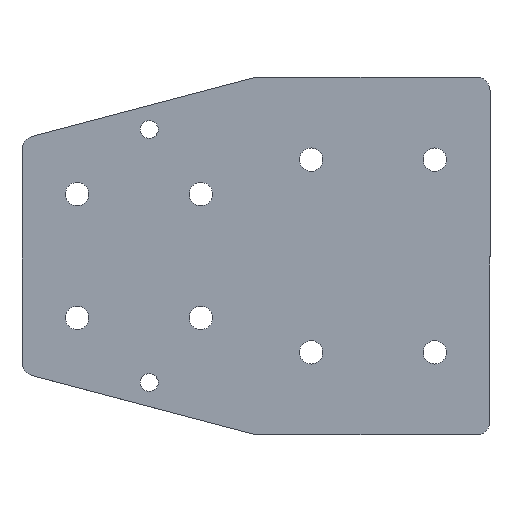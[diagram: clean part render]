
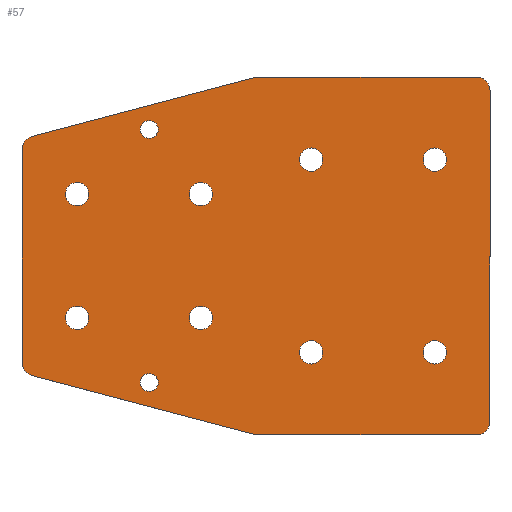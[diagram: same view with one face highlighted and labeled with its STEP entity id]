
A CAD part, top view. The second image highlights one B-rep face of the part: STEP entity #57.
In plain terms, the highlighted planar face has unit normal (0, 0, 1).
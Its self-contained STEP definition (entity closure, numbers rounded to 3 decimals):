
#57=ADVANCED_FACE('',(#291,#293,#295,#297,#299,#301,#303,#305,#307,#309,#311),#313,
.T.);
#291=FACE_BOUND('',#292,.T.);
#292=EDGE_LOOP('',(#514,#515,#516,#517,#518,#519,#520,#521,#522,#523,#524,#525));
#293=FACE_BOUND('',#294,.T.);
#294=EDGE_LOOP('',(#526));
#295=FACE_BOUND('',#296,.T.);
#296=EDGE_LOOP('',(#527));
#297=FACE_BOUND('',#298,.T.);
#298=EDGE_LOOP('',(#528));
#299=FACE_BOUND('',#300,.T.);
#300=EDGE_LOOP('',(#529));
#301=FACE_BOUND('',#302,.T.);
#302=EDGE_LOOP('',(#530));
#303=FACE_BOUND('',#304,.T.);
#304=EDGE_LOOP('',(#531));
#305=FACE_BOUND('',#306,.T.);
#306=EDGE_LOOP('',(#532));
#307=FACE_BOUND('',#308,.T.);
#308=EDGE_LOOP('',(#533));
#309=FACE_BOUND('',#310,.T.);
#310=EDGE_LOOP('',(#534));
#311=FACE_BOUND('',#312,.T.);
#312=EDGE_LOOP('',(#535));
#313=PLANE('',#314);
#314=AXIS2_PLACEMENT_3D('',#315,#316,#317);
#315=CARTESIAN_POINT('',(0.,0.,4.));
#316=DIRECTION('',(0.,0.,1.));
#317=DIRECTION('',(-1.,0.,0.));
#514=ORIENTED_EDGE('',*,*,#626,.T.);
#515=ORIENTED_EDGE('',*,*,#627,.T.);
#516=ORIENTED_EDGE('',*,*,#628,.T.);
#517=ORIENTED_EDGE('',*,*,#629,.T.);
#518=ORIENTED_EDGE('',*,*,#630,.T.);
#519=ORIENTED_EDGE('',*,*,#631,.T.);
#520=ORIENTED_EDGE('',*,*,#632,.T.);
#521=ORIENTED_EDGE('',*,*,#633,.T.);
#522=ORIENTED_EDGE('',*,*,#634,.T.);
#523=ORIENTED_EDGE('',*,*,#635,.T.);
#524=ORIENTED_EDGE('',*,*,#636,.T.);
#525=ORIENTED_EDGE('',*,*,#637,.T.);
#526=ORIENTED_EDGE('',*,*,#638,.T.);
#527=ORIENTED_EDGE('',*,*,#639,.T.);
#528=ORIENTED_EDGE('',*,*,#640,.T.);
#529=ORIENTED_EDGE('',*,*,#641,.T.);
#530=ORIENTED_EDGE('',*,*,#642,.T.);
#531=ORIENTED_EDGE('',*,*,#643,.T.);
#532=ORIENTED_EDGE('',*,*,#644,.T.);
#533=ORIENTED_EDGE('',*,*,#645,.T.);
#534=ORIENTED_EDGE('',*,*,#646,.T.);
#535=ORIENTED_EDGE('',*,*,#647,.T.);
#626=EDGE_CURVE('',#704,#705,#706,.T.);
#627=EDGE_CURVE('',#705,#707,#708,.T.);
#628=EDGE_CURVE('',#707,#709,#710,.T.);
#629=EDGE_CURVE('',#709,#711,#712,.T.);
#630=EDGE_CURVE('',#711,#713,#714,.T.);
#631=EDGE_CURVE('',#713,#715,#716,.T.);
#632=EDGE_CURVE('',#715,#717,#718,.T.);
#633=EDGE_CURVE('',#717,#719,#720,.T.);
#634=EDGE_CURVE('',#719,#721,#722,.T.);
#635=EDGE_CURVE('',#721,#723,#724,.T.);
#636=EDGE_CURVE('',#723,#725,#726,.T.);
#637=EDGE_CURVE('',#725,#704,#727,.T.);
#638=EDGE_CURVE('',#728,#728,#729,.F.);
#639=EDGE_CURVE('',#730,#730,#731,.F.);
#640=EDGE_CURVE('',#732,#732,#733,.F.);
#641=EDGE_CURVE('',#734,#734,#735,.F.);
#642=EDGE_CURVE('',#736,#736,#737,.F.);
#643=EDGE_CURVE('',#738,#738,#739,.F.);
#644=EDGE_CURVE('',#740,#740,#741,.F.);
#645=EDGE_CURVE('',#742,#742,#743,.F.);
#646=EDGE_CURVE('',#744,#744,#745,.F.);
#647=EDGE_CURVE('',#746,#746,#747,.F.);
#704=VERTEX_POINT('',#864);
#705=VERTEX_POINT('',#865);
#706=CIRCLE('',#866,5.);
#707=VERTEX_POINT('',#870);
#708=LINE('',#871,#872);
#709=VERTEX_POINT('',#874);
#710=CIRCLE('',#875,5.);
#711=VERTEX_POINT('',#879);
#712=LINE('',#880,#881);
#713=VERTEX_POINT('',#883);
#714=CIRCLE('',#884,5.);
#715=VERTEX_POINT('',#888);
#716=LINE('',#889,#890);
#717=VERTEX_POINT('',#892);
#718=CIRCLE('',#893,5.);
#719=VERTEX_POINT('',#897);
#720=LINE('',#898,#899);
#721=VERTEX_POINT('',#901);
#722=CIRCLE('',#902,5.);
#723=VERTEX_POINT('',#906);
#724=LINE('',#907,#908);
#725=VERTEX_POINT('',#910);
#726=CIRCLE('',#911,5.);
#727=LINE('',#915,#916);
#728=VERTEX_POINT('',#918);
#729=CIRCLE('',#919,4.25);
#730=VERTEX_POINT('',#923);
#731=CIRCLE('',#924,4.25);
#732=VERTEX_POINT('',#928);
#733=CIRCLE('',#929,4.25);
#734=VERTEX_POINT('',#933);
#735=CIRCLE('',#934,4.25);
#736=VERTEX_POINT('',#938);
#737=CIRCLE('',#939,4.25);
#738=VERTEX_POINT('',#943);
#739=CIRCLE('',#944,4.25);
#740=VERTEX_POINT('',#948);
#741=CIRCLE('',#949,4.25);
#742=VERTEX_POINT('',#953);
#743=CIRCLE('',#954,4.25);
#744=VERTEX_POINT('',#958);
#745=CIRCLE('',#959,3.25);
#746=VERTEX_POINT('',#963);
#747=CIRCLE('',#964,3.25);
#864=CARTESIAN_POINT('',(-85.629,-64.834,4.));
#865=CARTESIAN_POINT('',(-84.349,-65.,4.));
#866=AXIS2_PLACEMENT_3D('',#867,#868,#869);
#867=CARTESIAN_POINT('',(-84.349,-60.,4.));
#868=DIRECTION('',(0.,0.,1.));
#869=DIRECTION('',(-0.256,-0.967,0.));
#870=CARTESIAN_POINT('',(-5.,-65.,4.));
#871=CARTESIAN_POINT('',(-84.349,-65.,4.));
#872=VECTOR('',#873,1.);
#873=DIRECTION('',(1.,0.,0.));
#874=CARTESIAN_POINT('',(0.,-60.,4.));
#875=AXIS2_PLACEMENT_3D('',#876,#877,#878);
#876=CARTESIAN_POINT('',(-5.,-60.,4.));
#877=DIRECTION('',(0.,0.,1.));
#878=DIRECTION('',(0.,-1.,0.));
#879=CARTESIAN_POINT('',(0.,60.,4.));
#880=CARTESIAN_POINT('',(0.,-60.,4.));
#881=VECTOR('',#882,1.);
#882=DIRECTION('',(0.,1.,0.));
#883=CARTESIAN_POINT('',(-5.,65.,4.));
#884=AXIS2_PLACEMENT_3D('',#885,#886,#887);
#885=CARTESIAN_POINT('',(-5.,60.,4.));
#886=DIRECTION('',(0.,0.,1.));
#887=DIRECTION('',(1.,0.,0.));
#888=CARTESIAN_POINT('',(-84.349,65.,4.));
#889=CARTESIAN_POINT('',(-5.,65.,4.));
#890=VECTOR('',#891,1.);
#891=DIRECTION('',(-1.,0.,0.));
#892=CARTESIAN_POINT('',(-85.629,64.834,4.));
#893=AXIS2_PLACEMENT_3D('',#894,#895,#896);
#894=CARTESIAN_POINT('',(-84.349,60.,4.));
#895=DIRECTION('',(0.,0.,1.));
#896=DIRECTION('',(0.,1.,0.));
#897=CARTESIAN_POINT('',(-166.279,43.485,4.));
#898=CARTESIAN_POINT('',(-85.629,64.834,4.));
#899=VECTOR('',#900,1.);
#900=DIRECTION('',(-0.967,-0.256,0.));
#901=CARTESIAN_POINT('',(-170.,38.651,4.));
#902=AXIS2_PLACEMENT_3D('',#903,#904,#905);
#903=CARTESIAN_POINT('',(-165.,38.651,4.));
#904=DIRECTION('',(0.,0.,1.));
#905=DIRECTION('',(-0.256,0.967,0.));
#906=CARTESIAN_POINT('',(-170.,-38.651,4.));
#907=CARTESIAN_POINT('',(-170.,38.651,4.));
#908=VECTOR('',#909,1.);
#909=DIRECTION('',(0.,-1.,0.));
#910=CARTESIAN_POINT('',(-166.279,-43.485,4.));
#911=AXIS2_PLACEMENT_3D('',#912,#913,#914);
#912=CARTESIAN_POINT('',(-165.,-38.651,4.));
#913=DIRECTION('',(0.,0.,1.));
#914=DIRECTION('',(-1.,0.,0.));
#915=CARTESIAN_POINT('',(-166.279,-43.485,4.));
#916=VECTOR('',#917,1.);
#917=DIRECTION('',(0.967,-0.256,0.));
#918=CARTESIAN_POINT('',(-20.,30.75,4.));
#919=AXIS2_PLACEMENT_3D('',#920,#921,#922);
#920=CARTESIAN_POINT('',(-20.,35.,4.));
#921=DIRECTION('',(0.,0.,1.));
#922=DIRECTION('',(0.,-1.,0.));
#923=CARTESIAN_POINT('',(-105.,-26.75,4.));
#924=AXIS2_PLACEMENT_3D('',#925,#926,#927);
#925=CARTESIAN_POINT('',(-105.,-22.5,4.));
#926=DIRECTION('',(0.,0.,1.));
#927=DIRECTION('',(0.,-1.,0.));
#928=CARTESIAN_POINT('',(-150.,18.25,4.));
#929=AXIS2_PLACEMENT_3D('',#930,#931,#932);
#930=CARTESIAN_POINT('',(-150.,22.5,4.));
#931=DIRECTION('',(0.,0.,1.));
#932=DIRECTION('',(0.,-1.,0.));
#933=CARTESIAN_POINT('',(-150.,-26.75,4.));
#934=AXIS2_PLACEMENT_3D('',#935,#936,#937);
#935=CARTESIAN_POINT('',(-150.,-22.5,4.));
#936=DIRECTION('',(0.,0.,1.));
#937=DIRECTION('',(0.,-1.,0.));
#938=CARTESIAN_POINT('',(-20.,-39.25,4.));
#939=AXIS2_PLACEMENT_3D('',#940,#941,#942);
#940=CARTESIAN_POINT('',(-20.,-35.,4.));
#941=DIRECTION('',(0.,0.,1.));
#942=DIRECTION('',(0.,-1.,0.));
#943=CARTESIAN_POINT('',(-105.,18.25,4.));
#944=AXIS2_PLACEMENT_3D('',#945,#946,#947);
#945=CARTESIAN_POINT('',(-105.,22.5,4.));
#946=DIRECTION('',(0.,0.,1.));
#947=DIRECTION('',(0.,-1.,0.));
#948=CARTESIAN_POINT('',(-65.,30.75,4.));
#949=AXIS2_PLACEMENT_3D('',#950,#951,#952);
#950=CARTESIAN_POINT('',(-65.,35.,4.));
#951=DIRECTION('',(0.,0.,1.));
#952=DIRECTION('',(0.,-1.,0.));
#953=CARTESIAN_POINT('',(-65.,-39.25,4.));
#954=AXIS2_PLACEMENT_3D('',#955,#956,#957);
#955=CARTESIAN_POINT('',(-65.,-35.,4.));
#956=DIRECTION('',(0.,0.,1.));
#957=DIRECTION('',(0.,-1.,0.));
#958=CARTESIAN_POINT('',(-127.029,-45.942,4.));
#959=AXIS2_PLACEMENT_3D('',#960,#961,#962);
#960=CARTESIAN_POINT('',(-123.779,-45.942,4.));
#961=DIRECTION('',(0.,0.,1.));
#962=DIRECTION('',(-1.,0.,0.));
#963=CARTESIAN_POINT('',(-127.029,45.942,4.));
#964=AXIS2_PLACEMENT_3D('',#965,#966,#967);
#965=CARTESIAN_POINT('',(-123.779,45.942,4.));
#966=DIRECTION('',(0.,0.,1.));
#967=DIRECTION('',(-1.,0.,0.));
